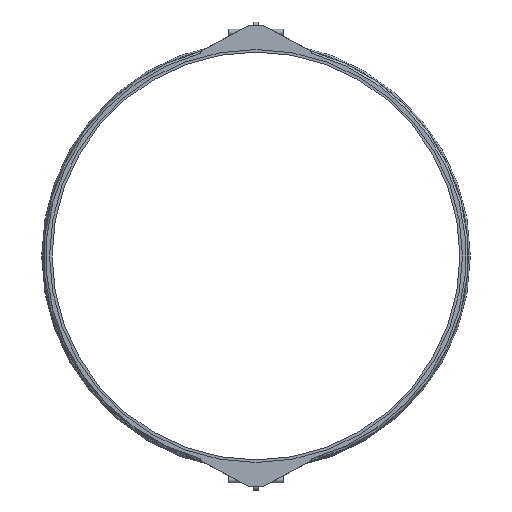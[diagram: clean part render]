
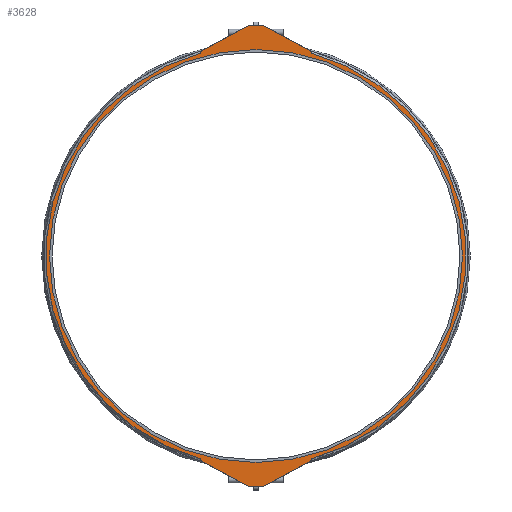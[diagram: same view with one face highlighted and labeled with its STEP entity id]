
A CAD part, left-side view. The second image highlights one B-rep face of the part: STEP entity #3628.
In plain terms, the highlighted planar face has unit normal (-1, 0, 0).
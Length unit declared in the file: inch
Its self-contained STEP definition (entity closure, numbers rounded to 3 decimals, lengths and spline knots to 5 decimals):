
#110=FACE_BOUND('',#658,.T.);
#246=PLANE('',#3949);
#437=FACE_OUTER_BOUND('',#657,.T.);
#657=EDGE_LOOP('',(#3180,#3181,#3182,#3183,#3184,#3185,#3186,#3187,#3188,
#3189,#3190,#3191,#3192,#3193,#3194,#3195,#3196,#3197,#3198,#3199));
#658=EDGE_LOOP('',(#3200,#3201));
#777=LINE('',#5235,#1120);
#785=LINE('',#5265,#1128);
#790=LINE('',#5289,#1133);
#793=LINE('',#5328,#1136);
#794=LINE('',#5349,#1137);
#948=LINE('',#5952,#1291);
#951=LINE('',#5957,#1294);
#960=LINE('',#5983,#1303);
#962=LINE('',#5990,#1305);
#966=LINE('',#5999,#1309);
#1120=VECTOR('',#4241,0.3937);
#1128=VECTOR('',#4263,0.3937);
#1133=VECTOR('',#4278,0.3937);
#1136=VECTOR('',#4291,0.3937);
#1137=VECTOR('',#4294,0.3937);
#1291=VECTOR('',#4684,0.3937);
#1294=VECTOR('',#4689,0.3937);
#1303=VECTOR('',#4714,0.3937);
#1305=VECTOR('',#4722,0.3937);
#1309=VECTOR('',#4732,0.3937);
#1369=CIRCLE('',#3736,0.063);
#1370=CIRCLE('',#3738,0.125);
#1371=CIRCLE('',#3741,0.125);
#1372=CIRCLE('',#3743,0.063);
#1374=CIRCLE('',#3748,30.535);
#1375=CIRCLE('',#3750,30.535);
#1414=CIRCLE('',#3871,0.063);
#1415=CIRCLE('',#3874,0.063);
#1416=CIRCLE('',#3877,0.125);
#1417=CIRCLE('',#3880,0.125);
#1453=CIRCLE('',#3947,30.);
#1454=CIRCLE('',#3948,30.);
#1550=VERTEX_POINT('',#5232);
#1551=VERTEX_POINT('',#5234);
#1561=VERTEX_POINT('',#5262);
#1562=VERTEX_POINT('',#5264);
#1564=VERTEX_POINT('',#5279);
#1565=VERTEX_POINT('',#5283);
#1566=VERTEX_POINT('',#5287);
#1568=VERTEX_POINT('',#5305);
#1569=VERTEX_POINT('',#5309);
#1570=VERTEX_POINT('',#5330);
#1574=VERTEX_POINT('',#5369);
#1575=VERTEX_POINT('',#5390);
#1713=VERTEX_POINT('',#5951);
#1714=VERTEX_POINT('',#5955);
#1722=VERTEX_POINT('',#5977);
#1723=VERTEX_POINT('',#5981);
#1724=VERTEX_POINT('',#5985);
#1725=VERTEX_POINT('',#5989);
#1726=VERTEX_POINT('',#5993);
#1727=VERTEX_POINT('',#5998);
#1769=VERTEX_POINT('',#6143);
#1770=VERTEX_POINT('',#6145);
#1910=EDGE_CURVE('',#1550,#1551,#777,.T.);
#1923=EDGE_CURVE('',#1561,#1562,#785,.T.);
#1926=EDGE_CURVE('',#1551,#1564,#1369,.T.);
#1929=EDGE_CURVE('',#1565,#1550,#1370,.T.);
#1931=EDGE_CURVE('',#1566,#1565,#790,.T.);
#1933=EDGE_CURVE('',#1562,#1566,#1371,.T.);
#1936=EDGE_CURVE('',#1568,#1561,#1372,.T.);
#1938=EDGE_CURVE('',#1569,#1568,#793,.T.);
#1940=EDGE_CURVE('',#1564,#1570,#794,.T.);
#1945=EDGE_CURVE('',#1569,#1574,#1374,.T.);
#1946=EDGE_CURVE('',#1575,#1570,#1375,.T.);
#2150=EDGE_CURVE('',#1713,#1575,#948,.T.);
#2153=EDGE_CURVE('',#1574,#1714,#951,.T.);
#2164=EDGE_CURVE('',#1714,#1722,#1414,.T.);
#2166=EDGE_CURVE('',#1722,#1723,#960,.T.);
#2167=EDGE_CURVE('',#1724,#1713,#1415,.T.);
#2169=EDGE_CURVE('',#1725,#1724,#962,.T.);
#2171=EDGE_CURVE('',#1726,#1725,#1416,.T.);
#2174=EDGE_CURVE('',#1727,#1726,#966,.T.);
#2176=EDGE_CURVE('',#1723,#1727,#1417,.T.);
#2246=EDGE_CURVE('',#1770,#1769,#1453,.T.);
#2247=EDGE_CURVE('',#1769,#1770,#1454,.T.);
#3180=ORIENTED_EDGE('',*,*,#1946,.T.);
#3181=ORIENTED_EDGE('',*,*,#1940,.F.);
#3182=ORIENTED_EDGE('',*,*,#1926,.F.);
#3183=ORIENTED_EDGE('',*,*,#1910,.F.);
#3184=ORIENTED_EDGE('',*,*,#1929,.F.);
#3185=ORIENTED_EDGE('',*,*,#1931,.F.);
#3186=ORIENTED_EDGE('',*,*,#1933,.F.);
#3187=ORIENTED_EDGE('',*,*,#1923,.F.);
#3188=ORIENTED_EDGE('',*,*,#1936,.F.);
#3189=ORIENTED_EDGE('',*,*,#1938,.F.);
#3190=ORIENTED_EDGE('',*,*,#1945,.T.);
#3191=ORIENTED_EDGE('',*,*,#2153,.T.);
#3192=ORIENTED_EDGE('',*,*,#2164,.T.);
#3193=ORIENTED_EDGE('',*,*,#2166,.T.);
#3194=ORIENTED_EDGE('',*,*,#2176,.T.);
#3195=ORIENTED_EDGE('',*,*,#2174,.T.);
#3196=ORIENTED_EDGE('',*,*,#2171,.T.);
#3197=ORIENTED_EDGE('',*,*,#2169,.T.);
#3198=ORIENTED_EDGE('',*,*,#2167,.T.);
#3199=ORIENTED_EDGE('',*,*,#2150,.T.);
#3200=ORIENTED_EDGE('',*,*,#2246,.T.);
#3201=ORIENTED_EDGE('',*,*,#2247,.T.);
#3628=ADVANCED_FACE('',(#437,#110),#246,.T.);
#3736=AXIS2_PLACEMENT_3D('',#5280,#4267,#4268);
#3738=AXIS2_PLACEMENT_3D('',#5285,#4273,#4274);
#3741=AXIS2_PLACEMENT_3D('',#5292,#4282,#4283);
#3743=AXIS2_PLACEMENT_3D('',#5307,#4287,#4288);
#3748=AXIS2_PLACEMENT_3D('',#5388,#4299,#4300);
#3750=AXIS2_PLACEMENT_3D('',#5391,#4303,#4304);
#3871=AXIS2_PLACEMENT_3D('',#5979,#4709,#4710);
#3874=AXIS2_PLACEMENT_3D('',#5986,#4717,#4718);
#3877=AXIS2_PLACEMENT_3D('',#5994,#4726,#4727);
#3880=AXIS2_PLACEMENT_3D('',#6002,#4736,#4737);
#3947=AXIS2_PLACEMENT_3D('',#6146,#4904,#4905);
#3948=AXIS2_PLACEMENT_3D('',#6147,#4906,#4907);
#3949=AXIS2_PLACEMENT_3D('',#6148,#4908,#4909);
#4241=DIRECTION('',(0.,0.882,0.47));
#4263=DIRECTION('',(0.,0.882,-0.47));
#4267=DIRECTION('center_axis',(1.,0.,0.));
#4268=DIRECTION('ref_axis',(0.,-1.,0.));
#4273=DIRECTION('center_axis',(1.,0.,0.));
#4274=DIRECTION('ref_axis',(0.,-0.47,0.882));
#4278=DIRECTION('',(0.,1.,0.));
#4282=DIRECTION('center_axis',(1.,0.,0.));
#4283=DIRECTION('ref_axis',(0.,0.,1.));
#4287=DIRECTION('center_axis',(1.,0.,0.));
#4288=DIRECTION('ref_axis',(0.,0.47,0.882));
#4291=DIRECTION('',(0.,0.,-1.));
#4294=DIRECTION('',(0.,0.,1.));
#4299=DIRECTION('center_axis',(-1.,0.,0.));
#4300=DIRECTION('ref_axis',(0.,0.,1.));
#4303=DIRECTION('center_axis',(-1.,0.,0.));
#4304=DIRECTION('ref_axis',(0.,0.,1.));
#4684=DIRECTION('',(0.,0.,-1.));
#4689=DIRECTION('',(0.,0.,1.));
#4709=DIRECTION('center_axis',(-1.,0.,0.));
#4710=DIRECTION('ref_axis',(0.,0.47,-0.882));
#4714=DIRECTION('',(0.,0.882,0.47));
#4717=DIRECTION('center_axis',(-1.,0.,0.));
#4718=DIRECTION('ref_axis',(0.,-1.,0.));
#4722=DIRECTION('',(0.,0.882,-0.47));
#4726=DIRECTION('center_axis',(-1.,0.,0.));
#4727=DIRECTION('ref_axis',(0.,-0.47,-0.882));
#4732=DIRECTION('',(0.,1.,0.));
#4736=DIRECTION('center_axis',(-1.,0.,0.));
#4737=DIRECTION('ref_axis',(0.,0.,-1.));
#4904=DIRECTION('center_axis',(1.,0.,0.));
#4905=DIRECTION('ref_axis',(0.,0.,-1.));
#4906=DIRECTION('center_axis',(1.,0.,0.));
#4907=DIRECTION('ref_axis',(0.,0.,-1.));
#4908=DIRECTION('center_axis',(-1.,0.,0.));
#4909=DIRECTION('ref_axis',(0.,0.,1.));
#5232=CARTESIAN_POINT('',(-3.315,1.02757,-33.48531));
#5234=CARTESIAN_POINT('',(-3.315,7.96664,-29.78618));
#5235=CARTESIAN_POINT('',(-3.315,1.02757,-33.48531));
#5262=CARTESIAN_POINT('',(-3.315,-7.96664,-29.78618));
#5264=CARTESIAN_POINT('',(-3.315,-1.02757,-33.48531));
#5265=CARTESIAN_POINT('',(-3.315,-7.96664,-29.78618));
#5279=CARTESIAN_POINT('',(-3.315,8.,-29.73059));
#5280=CARTESIAN_POINT('Origin',(-3.315,7.937,-29.73059));
#5283=CARTESIAN_POINT('',(-3.315,0.96876,-33.5));
#5285=CARTESIAN_POINT('Origin',(-3.315,0.96876,-33.375));
#5287=CARTESIAN_POINT('',(-3.315,-0.96876,-33.5));
#5289=CARTESIAN_POINT('',(-3.315,0.,-33.5));
#5292=CARTESIAN_POINT('Origin',(-3.315,-0.96876,-33.375));
#5305=CARTESIAN_POINT('',(-3.315,-8.,-29.73059));
#5307=CARTESIAN_POINT('Origin',(-3.315,-7.937,-29.73059));
#5309=CARTESIAN_POINT('',(-3.315,-8.,-29.46839));
#5328=CARTESIAN_POINT('',(-3.315,-8.,-29.46839));
#5330=CARTESIAN_POINT('',(-3.315,8.,-29.46839));
#5349=CARTESIAN_POINT('',(-3.315,8.,-29.73059));
#5369=CARTESIAN_POINT('',(-3.315,-8.,29.46839));
#5388=CARTESIAN_POINT('Origin',(-3.315,0.,0.));
#5390=CARTESIAN_POINT('',(-3.315,8.,29.46839));
#5391=CARTESIAN_POINT('Origin',(-3.315,0.,0.));
#5951=CARTESIAN_POINT('',(-3.315,8.,29.73059));
#5952=CARTESIAN_POINT('',(-3.315,8.,29.73059));
#5955=CARTESIAN_POINT('',(-3.315,-8.,29.73059));
#5957=CARTESIAN_POINT('',(-3.315,-8.,29.46839));
#5977=CARTESIAN_POINT('',(-3.315,-7.96664,29.78618));
#5979=CARTESIAN_POINT('Origin',(-3.315,-7.937,29.73059));
#5981=CARTESIAN_POINT('',(-3.315,-1.02757,33.48531));
#5983=CARTESIAN_POINT('',(-3.315,-7.96664,29.78618));
#5985=CARTESIAN_POINT('',(-3.315,7.96664,29.78618));
#5986=CARTESIAN_POINT('Origin',(-3.315,7.937,29.73059));
#5989=CARTESIAN_POINT('',(-3.315,1.02757,33.48531));
#5990=CARTESIAN_POINT('',(-3.315,1.02757,33.48531));
#5993=CARTESIAN_POINT('',(-3.315,0.96876,33.5));
#5994=CARTESIAN_POINT('Origin',(-3.315,0.96876,33.375));
#5998=CARTESIAN_POINT('',(-3.315,-0.96876,33.5));
#5999=CARTESIAN_POINT('',(-3.315,0.,33.5));
#6002=CARTESIAN_POINT('Origin',(-3.315,-0.96876,33.375));
#6143=CARTESIAN_POINT('',(-3.315,-30.,0.));
#6145=CARTESIAN_POINT('',(-3.315,30.,0.));
#6146=CARTESIAN_POINT('Origin',(-3.315,0.,0.));
#6147=CARTESIAN_POINT('Origin',(-3.315,0.,0.));
#6148=CARTESIAN_POINT('Origin',(-3.315,30.85,0.));
